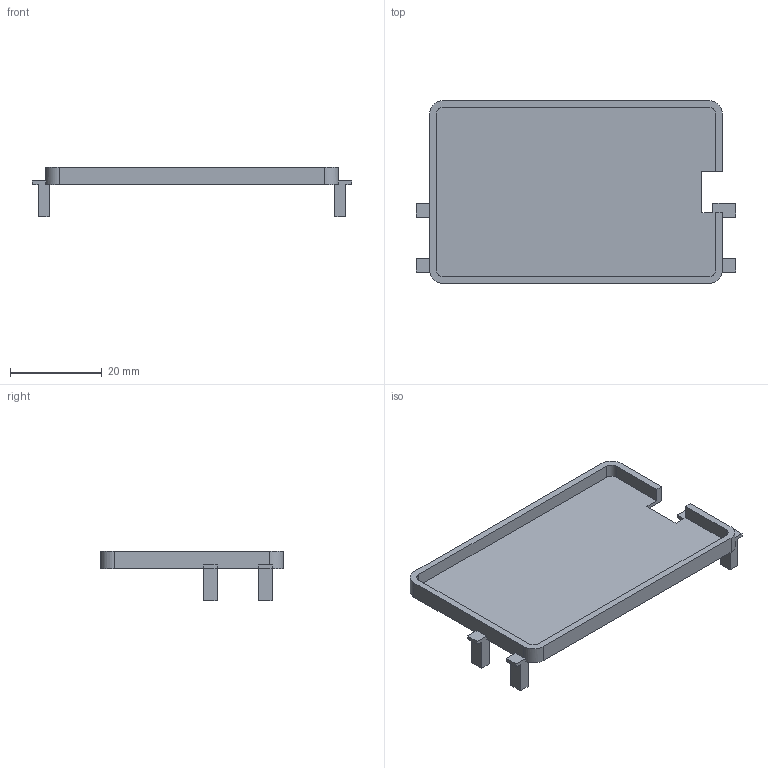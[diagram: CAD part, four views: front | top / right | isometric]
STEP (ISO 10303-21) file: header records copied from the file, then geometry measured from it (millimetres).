
FILE_DESCRIPTION(('Open CASCADE Model'),'2;1');
FILE_NAME('Open CASCADE Shape Model','2026-09-04T20:35:59',('Author'),( 'Open CASCADE'),'Open CASCADE STEP processor 7.7','Open CASCADE 7.7' ,'Unknown');
FILE_SCHEMA(('AUTOMOTIVE_DESIGN { 1 0 10303 214 1 1 1 1 }'));
Length unit declared in the file: millimetre
Products named in the file (1): Open CASCADE STEP translator 7.7 10
Bounding box: 69.8 x 40 x 10.85 mm (x, y, z)
Volume: 3094.8 mm3; surface area: 6741.3 mm2
Topology: 1 solids, 1 shells, 57 faces, 165 edges, 110 vertices
Faces by surface type: plane 49, cylinder 8
Entity records: 3972 total; most frequent: CARTESIAN_POINT 748, DIRECTION 569, LINE 404, VECTOR 404, ORIENTED_EDGE 330, PCURVE 330, DEFINITIONAL_REPRESENTATION 330, EDGE_CURVE 165
